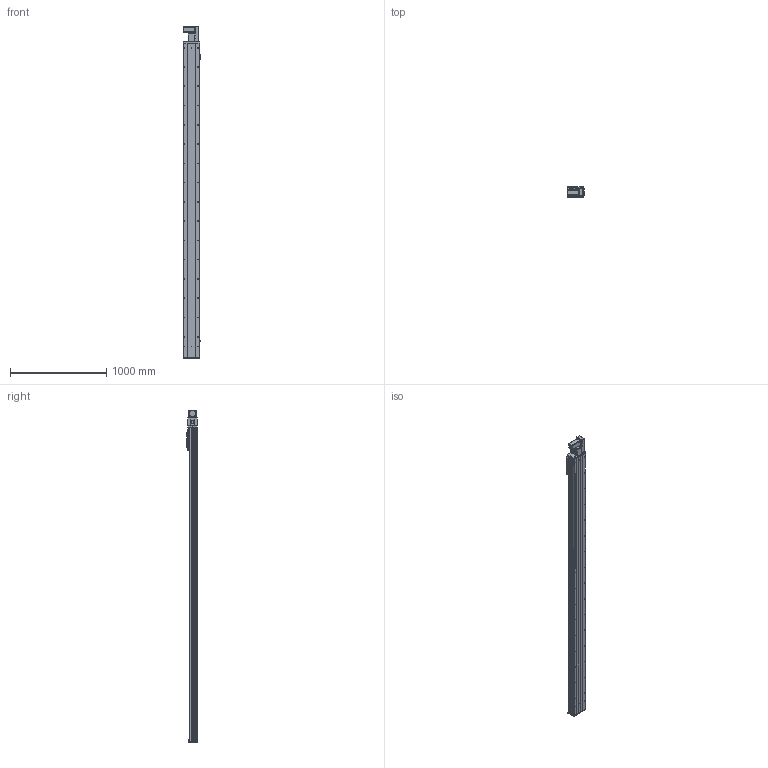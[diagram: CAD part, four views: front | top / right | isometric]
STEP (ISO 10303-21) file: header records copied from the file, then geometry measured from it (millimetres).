
FILE_DESCRIPTION (( 'STEP AP203' ), '1' );
FILE_NAME ('Y170CB-D105-S2950-BR-P400W.STEP', '2020-02-20T00:52:39', ( '微软用户' ), ( '微软中国' ), 'SwSTEP 2.0', 'SolidWorks 2017', '' );
FILE_SCHEMA (( 'CONFIG_CONTROL_DESIGN' ));
Length unit declared in the file: millimetre
Products named in the file (17): 70C-雄赽釱-奻-; san松下电机400不带刹车----; 0C--雄赽釱俋欶-170; Y70俋欶BR----; 70CB-詩湍--; 70CB-掛极-; Y100-135俋离換覜ん--; Y170CB-陔俋离換覜結え---; --70CB --喘謫眊楊擘啣-; 70B喘謫眊----; Y170CB-D105-S2950-BR-P400W; 70CB-耜裔啣-; B-源倛裔啣; 70C--詩湍揤踡え-; 17B-耜蚾蟀諉啣----; 70CB--耜裔; 0B-萇儂楊擘啣
Assembly tree (20 placements, depth 2):
  Y170CB-D105-S2950-BR-P400W
    70B喘謫眊----
    B-源倛裔啣
    17B-耜蚾蟀諉啣----
    0B-萇儂楊擘啣
    san松下电机400不带刹车----
    Y70俋欶BR----
    70CB-掛极-
    --70CB --喘謫眊楊擘啣-
    70CB-耜裔啣-  x2
    70C--詩湍揤踡え-  x2
    70CB--耜裔
    70C-雄赽釱-奻-
    0C--雄赽釱俋欶-170
    70CB-詩湍--
    Y100-135俋离換覜ん--  x3
    Y170CB-陔俋离換覜結え---
Bounding box: 183.5 x 107 x 3447 mm (x, y, z)
Volume: 14209878.3 mm3; surface area: 5129369.9 mm2
Topology: 20 solids, 20 shells, 1073 faces, 2897 edges, 1922 vertices
Faces by surface type: cylinder 587, plane 462, cone 24
Entity records: 34379 total; most frequent: CARTESIAN_POINT 6381, DIRECTION 5596, ORIENTED_EDGE 5276, EDGE_CURVE 2638, AXIS2_PLACEMENT_3D 2065, VERTEX_POINT 1752, LINE 1466, VECTOR 1466
